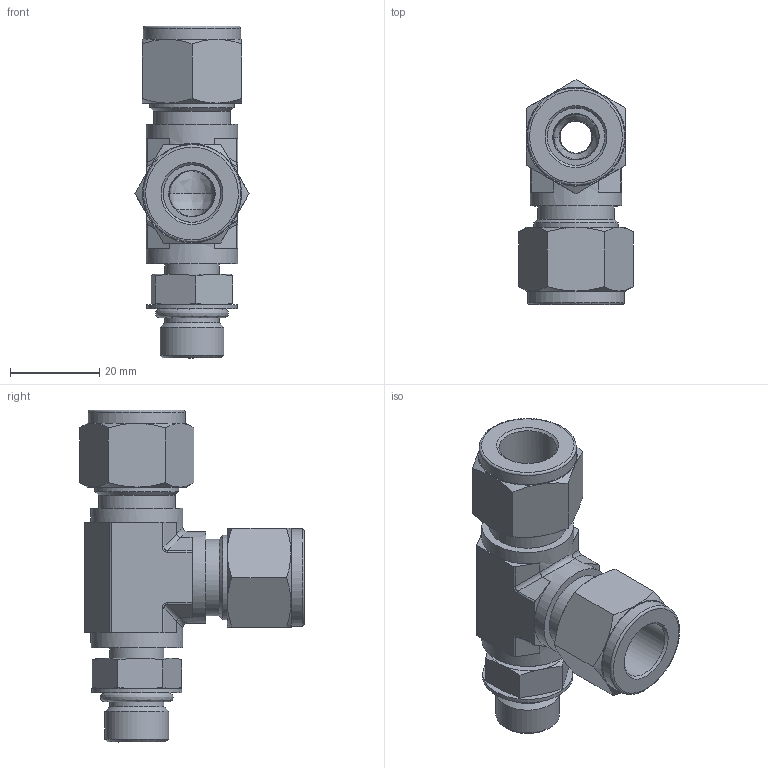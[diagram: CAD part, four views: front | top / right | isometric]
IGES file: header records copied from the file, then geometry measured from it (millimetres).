
Global section: file name: SPMRT-8-6U; native system: Autodesk Inventor 2016; preprocessor: unknown; author: DESIGNPC2; date: 20160315.091852; units: millimetre
Bounding box: 25.66 x 50.43 x 74.5 mm (x, y, z)
Volume: 24594.1 mm3; surface area: 13089.9 mm2
Topology: 4 solids, 4 shells, 169 faces, 410 edges, 261 vertices
Faces by surface type: bspline 169
